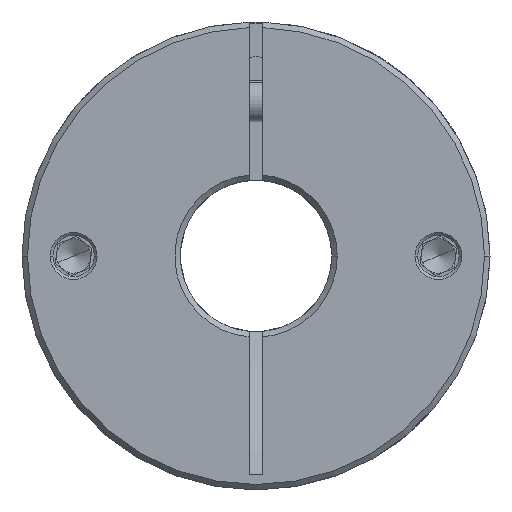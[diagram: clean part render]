
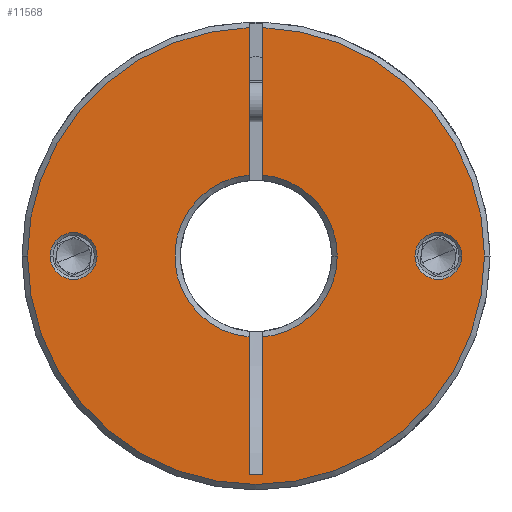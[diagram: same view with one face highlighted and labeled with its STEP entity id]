
A CAD part, front view. The second image highlights one B-rep face of the part: STEP entity #11568.
In plain terms, the highlighted planar face has unit normal (0, -1, 0).
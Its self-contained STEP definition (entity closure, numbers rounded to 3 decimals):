
#23 = FACE_BOUND ( 'NONE', #4981, .T. ) ;
#325 = CIRCLE ( 'NONE', #7602, 3.4 ) ;
#403 = ORIENTED_EDGE ( 'NONE', *, *, #8216, .T. ) ;
#450 = VERTEX_POINT ( 'NONE', #11848 ) ;
#544 = ORIENTED_EDGE ( 'NONE', *, *, #13047, .T. ) ;
#581 = DIRECTION ( 'NONE',  ( 1., 0., 0. ) ) ;
#586 = CARTESIAN_POINT ( 'NONE',  ( -1.735, -47.045, 68. ) ) ;
#873 = VERTEX_POINT ( 'NONE', #9532 ) ;
#936 = DIRECTION ( 'NONE',  ( 1., 0., 0. ) ) ;
#1059 = AXIS2_PLACEMENT_3D ( 'NONE', #2812, #1866, #8900 ) ;
#1111 = VERTEX_POINT ( 'NONE', #5517 ) ;
#1294 = DIRECTION ( 'NONE',  ( 1., 0., 0. ) ) ;
#1326 = LINE ( 'NONE', #12331, #7772 ) ;
#1560 = DIRECTION ( 'NONE',  ( 0., 1., 0. ) ) ;
#1570 = CIRCLE ( 'NONE', #2450, 33.2 ) ;
#1590 = VERTEX_POINT ( 'NONE', #7919 ) ;
#1625 = LINE ( 'NONE', #2925, #4681 ) ;
#1685 = VERTEX_POINT ( 'NONE', #6094 ) ;
#1694 = CARTESIAN_POINT ( 'NONE',  ( -3.735, -47.045, 36.279 ) ) ;
#1704 = DIRECTION ( 'NONE',  ( 0., 0., -1. ) ) ;
#1825 = CARTESIAN_POINT ( 'NONE',  ( 23.765, -47.045, 68. ) ) ;
#1846 = VERTEX_POINT ( 'NONE', #8922 ) ;
#1866 = DIRECTION ( 'NONE',  ( 0., 1., 0. ) ) ;
#1924 = DIRECTION ( 'NONE',  ( 0., 0., -1. ) ) ;
#2033 = ORIENTED_EDGE ( 'NONE', *, *, #5453, .T. ) ;
#2072 = VERTEX_POINT ( 'NONE', #6170 ) ;
#2360 = PLANE ( 'NONE',  #12939 ) ;
#2410 = ORIENTED_EDGE ( 'NONE', *, *, #6747, .T. ) ;
#2450 = AXIS2_PLACEMENT_3D ( 'NONE', #13272, #10204, #10152 ) ;
#2503 = CARTESIAN_POINT ( 'NONE',  ( -3.735, -47.045, 56.242 ) ) ;
#2623 = CARTESIAN_POINT ( 'NONE',  ( -2.735, -47.045, 68. ) ) ;
#2629 = CARTESIAN_POINT ( 'NONE',  ( -3.735, -47.045, 101.185 ) ) ;
#2812 = CARTESIAN_POINT ( 'NONE',  ( -2.735, -47.045, 68. ) ) ;
#2861 = AXIS2_PLACEMENT_3D ( 'NONE', #3199, #9383, #3246 ) ;
#2870 = DIRECTION ( 'NONE',  ( 0., 1., 0. ) ) ;
#2925 = CARTESIAN_POINT ( 'NONE',  ( -3.735, -47.045, 68. ) ) ;
#3080 = ORIENTED_EDGE ( 'NONE', *, *, #5317, .T. ) ;
#3199 = CARTESIAN_POINT ( 'NONE',  ( -2.735, -47.045, 68. ) ) ;
#3246 = DIRECTION ( 'NONE',  ( 1., 0., 0. ) ) ;
#3397 = CARTESIAN_POINT ( 'NONE',  ( -2.735, -47.045, 68. ) ) ;
#3450 = DIRECTION ( 'NONE',  ( 0., -1., 0. ) ) ;
#3465 = VERTEX_POINT ( 'NONE', #10986 ) ;
#3721 = EDGE_CURVE ( 'NONE', #7847, #10500, #1326, .T. ) ;
#3726 = FACE_OUTER_BOUND ( 'NONE', #10987, .T. ) ;
#3836 = EDGE_CURVE ( 'NONE', #1111, #7847, #11600, .T. ) ;
#3850 = VERTEX_POINT ( 'NONE', #2629 ) ;
#3874 = ORIENTED_EDGE ( 'NONE', *, *, #11469, .T. ) ;
#3956 = AXIS2_PLACEMENT_3D ( 'NONE', #1825, #2870, #11072 ) ;
#4283 = CIRCLE ( 'NONE', #3956, 3.4 ) ;
#4351 = LINE ( 'NONE', #586, #13188 ) ;
#4369 = ORIENTED_EDGE ( 'NONE', *, *, #5617, .F. ) ;
#4417 = AXIS2_PLACEMENT_3D ( 'NONE', #6442, #3450, #1294 ) ;
#4501 = VECTOR ( 'NONE', #1924, 1000. ) ;
#4578 = CARTESIAN_POINT ( 'NONE',  ( -1.735, -47.045, 101.185 ) ) ;
#4681 = VECTOR ( 'NONE', #10088, 1000. ) ;
#4835 = EDGE_CURVE ( 'NONE', #12662, #1111, #9330, .T. ) ;
#4900 = ORIENTED_EDGE ( 'NONE', *, *, #4835, .T. ) ;
#4981 = EDGE_LOOP ( 'NONE', ( #3080, #12438 ) ) ;
#4984 = EDGE_LOOP ( 'NONE', ( #544, #403 ) ) ;
#5091 = CARTESIAN_POINT ( 'NONE',  ( -3.735, -47.045, 68. ) ) ;
#5147 = AXIS2_PLACEMENT_3D ( 'NONE', #7992, #10135, #936 ) ;
#5317 = EDGE_CURVE ( 'NONE', #1590, #9802, #325, .T. ) ;
#5453 = EDGE_CURVE ( 'NONE', #10500, #450, #6241, .T. ) ;
#5517 = CARTESIAN_POINT ( 'NONE',  ( 9.065, -47.045, 68. ) ) ;
#5617 = EDGE_CURVE ( 'NONE', #6394, #450, #7372, .T. ) ;
#5619 = ORIENTED_EDGE ( 'NONE', *, *, #11265, .F. ) ;
#5648 = CARTESIAN_POINT ( 'NONE',  ( -29.235, -47.045, 68. ) ) ;
#5776 = DIRECTION ( 'NONE',  ( 1., 0., 0. ) ) ;
#6086 = DIRECTION ( 'NONE',  ( 0., -1., 0. ) ) ;
#6094 = CARTESIAN_POINT ( 'NONE',  ( 27.165, -47.045, 68. ) ) ;
#6170 = CARTESIAN_POINT ( 'NONE',  ( 20.365, -47.045, 68. ) ) ;
#6241 = LINE ( 'NONE', #1694, #9952 ) ;
#6394 = VERTEX_POINT ( 'NONE', #2503 ) ;
#6442 = CARTESIAN_POINT ( 'NONE',  ( -2.735, -47.045, 68. ) ) ;
#6461 = AXIS2_PLACEMENT_3D ( 'NONE', #3397, #11508, #9530 ) ;
#6730 = CARTESIAN_POINT ( 'NONE',  ( -29.235, -47.045, 68. ) ) ;
#6747 = EDGE_CURVE ( 'NONE', #1846, #873, #1570, .T. ) ;
#6780 = CIRCLE ( 'NONE', #9199, 3.4 ) ;
#6939 = VERTEX_POINT ( 'NONE', #4578 ) ;
#7085 = CARTESIAN_POINT ( 'NONE',  ( -1.735, -47.045, 56.242 ) ) ;
#7235 = ORIENTED_EDGE ( 'NONE', *, *, #11304, .T. ) ;
#7271 = CARTESIAN_POINT ( 'NONE',  ( -1.735, -47.045, 79.758 ) ) ;
#7372 = LINE ( 'NONE', #5091, #4501 ) ;
#7602 = AXIS2_PLACEMENT_3D ( 'NONE', #6730, #11819, #10914 ) ;
#7772 = VECTOR ( 'NONE', #10261, 1000. ) ;
#7847 = VERTEX_POINT ( 'NONE', #7085 ) ;
#7919 = CARTESIAN_POINT ( 'NONE',  ( -25.835, -47.045, 68. ) ) ;
#7992 = CARTESIAN_POINT ( 'NONE',  ( 23.765, -47.045, 68. ) ) ;
#8060 = CIRCLE ( 'NONE', #4417, 33.2 ) ;
#8216 = EDGE_CURVE ( 'NONE', #2072, #1685, #4283, .T. ) ;
#8296 = DIRECTION ( 'NONE',  ( 1., 0., 0. ) ) ;
#8396 = ORIENTED_EDGE ( 'NONE', *, *, #3721, .T. ) ;
#8698 = CARTESIAN_POINT ( 'NONE',  ( -32.635, -47.045, 68. ) ) ;
#8900 = DIRECTION ( 'NONE',  ( 1., 0., 0. ) ) ;
#8922 = CARTESIAN_POINT ( 'NONE',  ( -35.935, -47.045, 68. ) ) ;
#9051 = CARTESIAN_POINT ( 'NONE',  ( -1.735, -47.045, 36.279 ) ) ;
#9199 = AXIS2_PLACEMENT_3D ( 'NONE', #5648, #1560, #5776 ) ;
#9330 = CIRCLE ( 'NONE', #1059, 11.8 ) ;
#9366 = DIRECTION ( 'NONE',  ( 0., -1., 0. ) ) ;
#9383 = DIRECTION ( 'NONE',  ( 0., 1., 0. ) ) ;
#9530 = DIRECTION ( 'NONE',  ( 1., 0., 0. ) ) ;
#9532 = CARTESIAN_POINT ( 'NONE',  ( 30.465, -47.045, 68. ) ) ;
#9802 = VERTEX_POINT ( 'NONE', #8698 ) ;
#9952 = VECTOR ( 'NONE', #12979, 1000. ) ;
#10088 = DIRECTION ( 'NONE',  ( 0., 0., -1. ) ) ;
#10107 = EDGE_CURVE ( 'NONE', #9802, #1590, #6780, .T. ) ;
#10135 = DIRECTION ( 'NONE',  ( 0., 1., 0. ) ) ;
#10152 = DIRECTION ( 'NONE',  ( 1., 0., 0. ) ) ;
#10204 = DIRECTION ( 'NONE',  ( 0., -1., 0. ) ) ;
#10261 = DIRECTION ( 'NONE',  ( 0., 0., -1. ) ) ;
#10369 = EDGE_CURVE ( 'NONE', #6394, #3465, #12104, .T. ) ;
#10500 = VERTEX_POINT ( 'NONE', #9051 ) ;
#10914 = DIRECTION ( 'NONE',  ( 1., 0., 0. ) ) ;
#10986 = CARTESIAN_POINT ( 'NONE',  ( -3.735, -47.045, 79.758 ) ) ;
#10987 = EDGE_LOOP ( 'NONE', ( #5619, #7235, #2410, #3874, #11145, #4900, #11366, #8396, #2033, #4369, #12133 ) ) ;
#11072 = DIRECTION ( 'NONE',  ( 1., 0., 0. ) ) ;
#11145 = ORIENTED_EDGE ( 'NONE', *, *, #11906, .T. ) ;
#11265 = EDGE_CURVE ( 'NONE', #3850, #3465, #1625, .T. ) ;
#11289 = CARTESIAN_POINT ( 'NONE',  ( -2.735, -47.045, 68. ) ) ;
#11304 = EDGE_CURVE ( 'NONE', #3850, #1846, #12237, .T. ) ;
#11366 = ORIENTED_EDGE ( 'NONE', *, *, #3836, .T. ) ;
#11469 = EDGE_CURVE ( 'NONE', #873, #6939, #8060, .T. ) ;
#11508 = DIRECTION ( 'NONE',  ( 0., 1., 0. ) ) ;
#11534 = AXIS2_PLACEMENT_3D ( 'NONE', #11289, #9366, #8296 ) ;
#11568 = ADVANCED_FACE ( 'NONE', ( #12891, #23, #3726 ), #2360, .T. ) ;
#11600 = CIRCLE ( 'NONE', #6461, 11.8 ) ;
#11819 = DIRECTION ( 'NONE',  ( 0., 1., 0. ) ) ;
#11848 = CARTESIAN_POINT ( 'NONE',  ( -3.735, -47.045, 36.279 ) ) ;
#11906 = EDGE_CURVE ( 'NONE', #6939, #12662, #4351, .T. ) ;
#12104 = CIRCLE ( 'NONE', #2861, 11.8 ) ;
#12133 = ORIENTED_EDGE ( 'NONE', *, *, #10369, .T. ) ;
#12204 = CIRCLE ( 'NONE', #5147, 3.4 ) ;
#12237 = CIRCLE ( 'NONE', #11534, 33.2 ) ;
#12331 = CARTESIAN_POINT ( 'NONE',  ( -1.735, -47.045, 68. ) ) ;
#12438 = ORIENTED_EDGE ( 'NONE', *, *, #10107, .T. ) ;
#12662 = VERTEX_POINT ( 'NONE', #7271 ) ;
#12891 = FACE_BOUND ( 'NONE', #4984, .T. ) ;
#12939 = AXIS2_PLACEMENT_3D ( 'NONE', #2623, #6086, #581 ) ;
#12979 = DIRECTION ( 'NONE',  ( -1., 0., 0. ) ) ;
#13047 = EDGE_CURVE ( 'NONE', #1685, #2072, #12204, .T. ) ;
#13188 = VECTOR ( 'NONE', #1704, 1000. ) ;
#13272 = CARTESIAN_POINT ( 'NONE',  ( -2.735, -47.045, 68. ) ) ;
